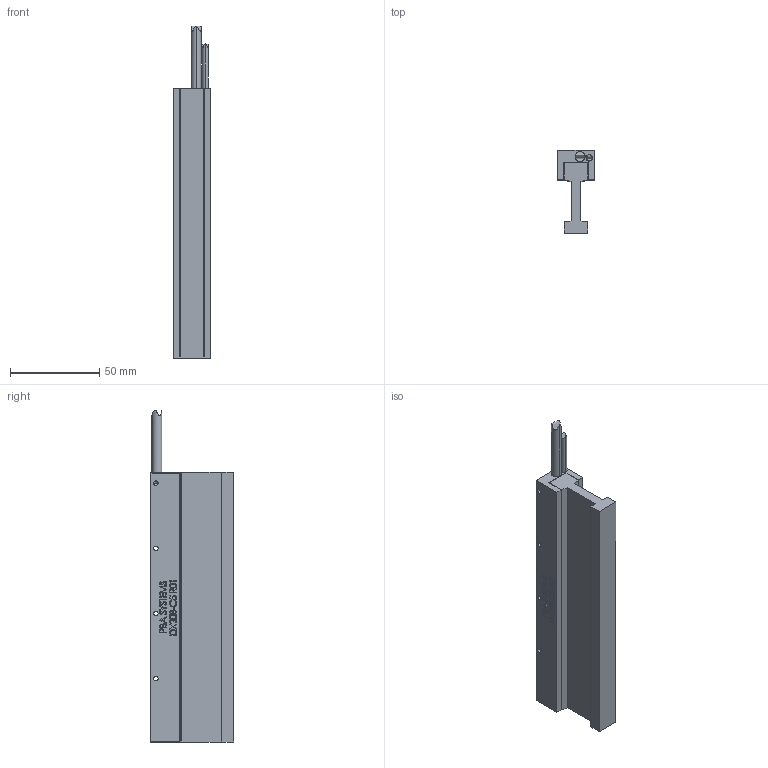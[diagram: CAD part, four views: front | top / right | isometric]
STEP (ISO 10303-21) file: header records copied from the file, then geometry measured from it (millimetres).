
FILE_DESCRIPTION (( 'STEP AP203' ), '1' );
FILE_NAME ('DX20B-C5-000.STEP', '2015-05-28T01:20:08', ( 'PBAsystems' ), ( '' ), 'SwSTEP 2.0', 'SolidWorks 2013', '' );
FILE_SCHEMA (( 'CONFIG_CONTROL_DESIGN' ));
Length unit declared in the file: millimetre
Products named in the file (5): DX20B-C5-001_CUSTOMER; DX20B-CX-002_C5; CBL_MTR_PWR_SS_7C2C_SA (#2936-1); CBL_MTR_HALL_SS_5C_SA (#2935-1); DX20B-C5-000
Assembly tree (4 placements, depth 2):
  DX20B-C5-000
    DX20B-C5-001_CUSTOMER
    DX20B-CX-002_C5
    CBL_MTR_PWR_SS_7C2C_SA (#2936-1)
    CBL_MTR_HALL_SS_5C_SA (#2935-1)
Bounding box: 21 x 46.55 x 186 mm (x, y, z)
Volume: 85593.9 mm3; surface area: 35679.2 mm2
Topology: 4 solids, 4 shells, 678 faces, 1789 edges, 1174 vertices
Faces by surface type: plane 375, bspline 246, cylinder 37, cone 20
Entity records: 34692 total; most frequent: CARTESIAN_POINT 19122, ORIENTED_EDGE 3538, DIRECTION 2219, EDGE_CURVE 1769, LINE 1205, VECTOR 1205, VERTEX_POINT 1174, EDGE_LOOP 759
